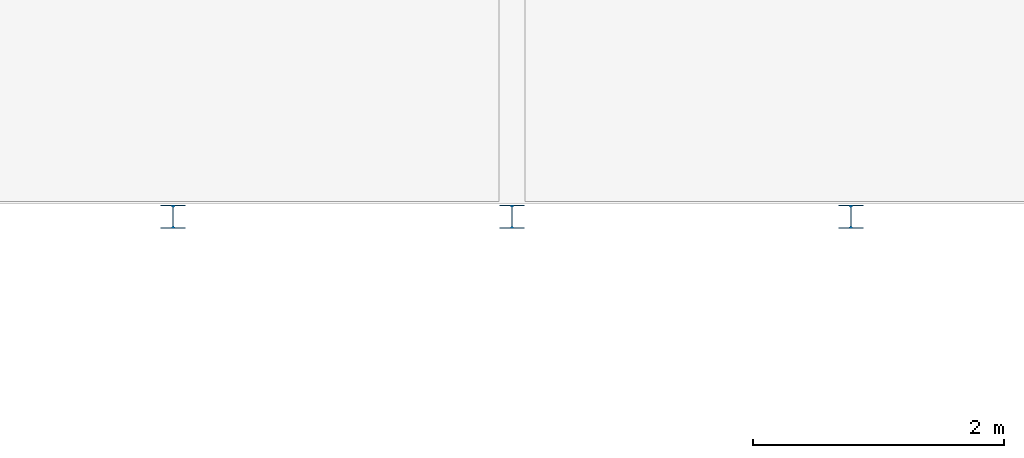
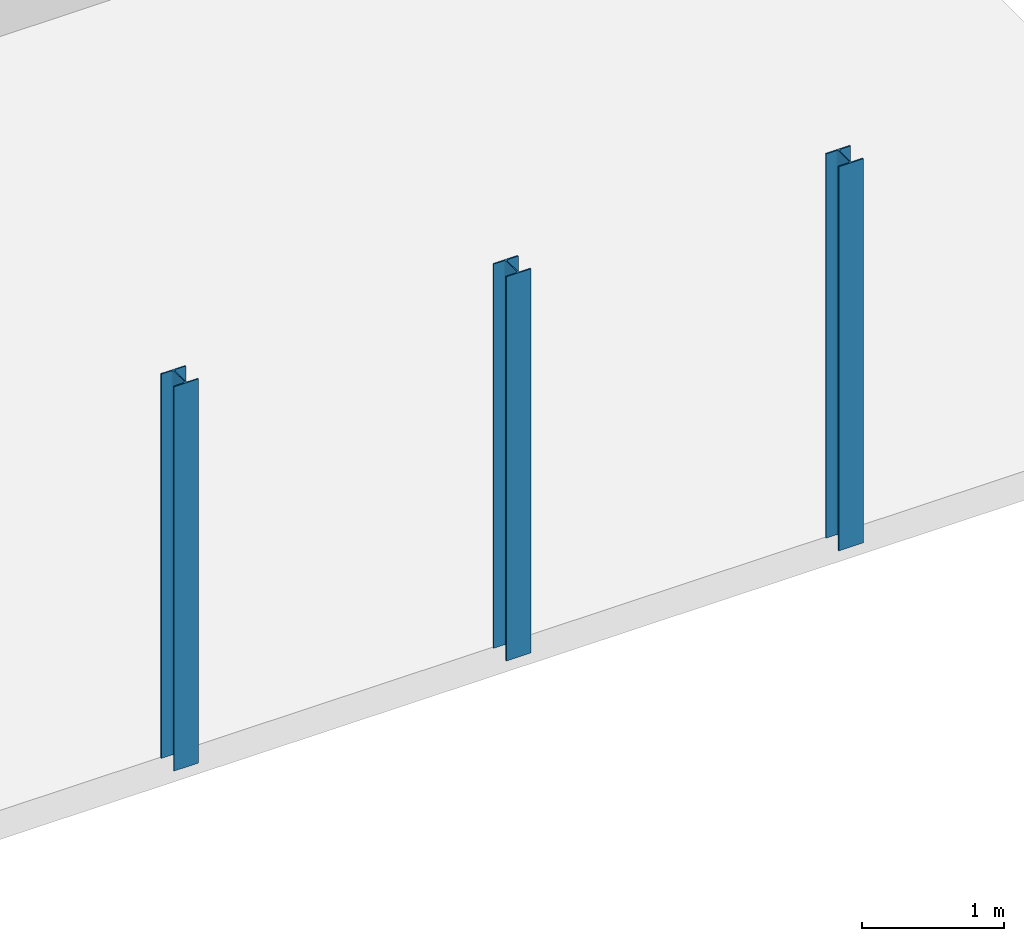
# One storey, part 6 of 22: 3 columns.
"""IFC2X3 building model written with IfcOpenShell, lengths in millimetres."""

from ifc_helpers import new_model, entity, si_unit, converted_unit, derived_unit, direction, frame, frame_2d, origin, place, context, subcontext, project, spatial, polyline, circle_curve, parameter, trimmed, segment, composite_curve, outline, extrude, source, transform, mapped, material, type_object, type_shapes, element, save


model = new_model("IFC2X3")

# Units and contexts
model_context = context("Model", 3, precision=0.01, world=origin(), true_north=direction((6.12303176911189e-17, 1.0)))
body_context = subcontext(model_context, "Body", "Model", "MODEL_VIEW")
ifc_project = project(units=[si_unit("LENGTHUNIT", "METRE", prefix="MILLI"), si_unit("AREAUNIT", "SQUARE_METRE"), si_unit("VOLUMEUNIT", "CUBIC_METRE"), converted_unit("PLANEANGLEUNIT", "DEGREE", entity("IfcRatioMeasure", 0.0174532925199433), si_unit("PLANEANGLEUNIT", "RADIAN"), dimensions=[0, 0, 0, 0, 0, 0, 0]), si_unit("MASSUNIT", "GRAM", prefix="KILO"), derived_unit("MASSDENSITYUNIT", [(si_unit("MASSUNIT", "GRAM", prefix="KILO"), 1), (si_unit("LENGTHUNIT", "METRE"), -3)]), si_unit("TIMEUNIT", "SECOND"), si_unit("FREQUENCYUNIT", "HERTZ"), si_unit("THERMODYNAMICTEMPERATUREUNIT", "DEGREE_CELSIUS"), derived_unit("THERMALTRANSMITTANCEUNIT", [(si_unit("MASSUNIT", "GRAM", prefix="KILO"), 1), (si_unit("THERMODYNAMICTEMPERATUREUNIT", "KELVIN"), -1), (si_unit("TIMEUNIT", "SECOND"), -3)]), derived_unit("VOLUMETRICFLOWRATEUNIT", [(si_unit("LENGTHUNIT", "METRE"), 3), (si_unit("TIMEUNIT", "SECOND"), -1)]), si_unit("ELECTRICCURRENTUNIT", "AMPERE"), si_unit("ELECTRICVOLTAGEUNIT", "VOLT"), si_unit("POWERUNIT", "WATT"), si_unit("FORCEUNIT", "NEWTON", prefix="KILO"), si_unit("ILLUMINANCEUNIT", "LUX"), si_unit("LUMINOUSFLUXUNIT", "LUMEN"), si_unit("LUMINOUSINTENSITYUNIT", "CANDELA"), derived_unit("USERDEFINED", [(si_unit("MASSUNIT", "GRAM", prefix="KILO"), -1), (si_unit("LENGTHUNIT", "METRE"), -2), (si_unit("TIMEUNIT", "SECOND"), 3), (si_unit("LUMINOUSFLUXUNIT", "LUMEN"), 1)]), derived_unit("LINEARVELOCITYUNIT", [(si_unit("LENGTHUNIT", "METRE"), 1), (si_unit("TIMEUNIT", "SECOND"), -1)]), si_unit("PRESSUREUNIT", "PASCAL"), derived_unit("USERDEFINED", [(si_unit("LENGTHUNIT", "METRE"), -2), (si_unit("MASSUNIT", "GRAM", prefix="KILO"), 1), (si_unit("TIMEUNIT", "SECOND"), -2)])], contexts=[model_context])

# Site, building, storey
site_placement = place(None, origin())
site = spatial("IfcSite", under=ifc_project, at=site_placement, Name="Default", CompositionType="ELEMENT")
building_placement = place(site_placement, origin())
building = spatial("IfcBuilding", under=site, at=building_placement, Name="niet gebruiken", CompositionType="ELEMENT")
storey_placement = place(building_placement, frame((0.0, 0.0, 9630.0)))
storey = spatial("IfcBuildingStorey", under=building, at=storey_placement, Name="03 derde verdieping", CompositionType="ELEMENT", Elevation=9630.00000000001)

# Columns
ifc_material = material(Name="NLRS_h2_staal")
column_type = type_object("IfcColumnType", Name="kolom HEA 200", PredefinedType="COLUMN", material=ifc_material)
shared_shape = source(origin(), body_context, "Body", "SweptSolid", [
    extrude(outline(composite_curve([segment(polyline([(85.0, -100.0), (95.0, -100.0)]), True, "CONTINUOUS"), segment(polyline([(95.0, -100.0), (95.0, 100.0)]), True, "CONTINUOUS"), segment(polyline([(95.0, 100.0), (85.0, 100.0)]), True, "CONTINUOUS"), segment(polyline([(85.0, 100.0), (85.0, 21.2499999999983)]), True, "CONTINUOUS"), segment(trimmed(circle_curve(frame_2d((67.0, 21.2499999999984), x_axis=(1.0, 0.0)), 18.0), [parameter(270.0)], [parameter(0.0)], True, "PARAMETER"), False, "CONTINUOUS"), segment(polyline([(67.0, 3.24999999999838), (-67.0, 3.24999999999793)]), True, "CONTINUOUS"), segment(trimmed(circle_curve(frame_2d((-67.0, 21.2499999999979), x_axis=(0.0, -1.0)), 18.0), [parameter(270.0)], [parameter(0.0)], True, "PARAMETER"), False, "CONTINUOUS"), segment(polyline([(-85.0, 21.2499999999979), (-85.0, 100.0)]), True, "CONTINUOUS"), segment(polyline([(-85.0, 100.0), (-95.0, 100.0)]), True, "CONTINUOUS"), segment(polyline([(-95.0, 100.0), (-95.0, -100.0)]), True, "CONTINUOUS"), segment(polyline([(-95.0, -100.0), (-85.0, -100.0)]), True, "CONTINUOUS"), segment(polyline([(-85.0, -100.0), (-85.0, -21.250000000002)]), True, "CONTINUOUS"), segment(trimmed(circle_curve(frame_2d((-67.0, -21.2500000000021), x_axis=(-1.0, 0.0)), 18.0), [parameter(270.0)], [parameter(0.0)], True, "PARAMETER"), False, "CONTINUOUS"), segment(polyline([(-67.0, -3.25000000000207), (67.0, -3.25000000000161)]), True, "CONTINUOUS"), segment(trimmed(circle_curve(frame_2d((67.0, -21.2500000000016), x_axis=(0.0, 1.0)), 18.0), [parameter(270.0)], [parameter(0.0)], True, "PARAMETER"), False, "CONTINUOUS"), segment(polyline([(85.0, -21.2500000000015), (85.0, -100.0)]), True, "CONTINUOUS")], self_intersect=False)), frame((0.0, 0.0, 9540.0), z_axis=(0.0, 0.0, 1.0), x_axis=(0.0, -1.0, 0.0)), (0.0, 0.0, 1.0), 3300.0),
])
type_shapes(column_type, [shared_shape])
for number, where, name in (
    (1, (81000.0, 300.0, -9630.0), "NLRS_28.11_SCO_TLB_stalen kolom HEA_gen:kolom HEA 200"),
    (2, (83700.0, 300.0, -9630.0), "NLRS_28.11_SCO_TLB_stalen kolom HEA_gen:kolom HEA 200"),
    (3, (78300.0, 300.0, -9630.0), "NLRS_28.11_SCO_TLB_stalen kolom HEA_gen:kolom HEA 200"),
):
    element("IfcColumn", number, at=place(storey_placement, frame(where)), inside=storey, type_object=column_type, material=ifc_material, Name=name, ObjectType="kolom HEA 200", context=body_context, shape_type="MappedRepresentation", body=[
        mapped(shared_shape, transform((0.0, 0.0, 0.0), scale=1.0)),
    ])

save(model, "model.ifc")
